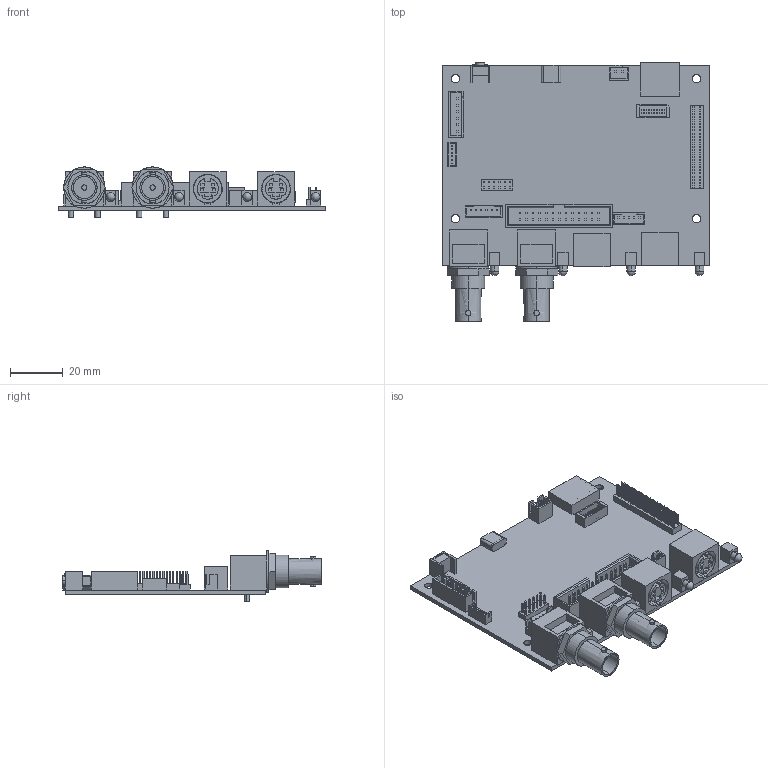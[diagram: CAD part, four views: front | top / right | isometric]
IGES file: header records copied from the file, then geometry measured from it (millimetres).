
Start section: SolidWorks IGES file using analytic representation for surfaces
Global section: file name: Y:\keith Tsang\Finsihed\2D and 3D Drawing\AVD-1000\3d\AVD-1000_IGS.IGS; native system: SolidWorks 2011; preprocessor: SolidWorks 2011; author: keithtsang; date: 150408.181436; units: millimetre
Bounding box: 102 x 98.95 x 19.1 mm (x, y, z)
Surface area: 33039.8 mm2 (no closed solid volume)
Topology: 0 solids, 0 shells, 1207 faces, 8004 edges, 7988 vertices
Faces by surface type: bspline 1105, revolution 102
